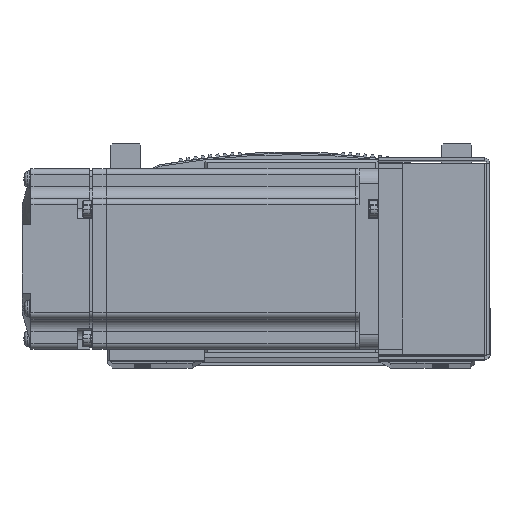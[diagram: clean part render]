
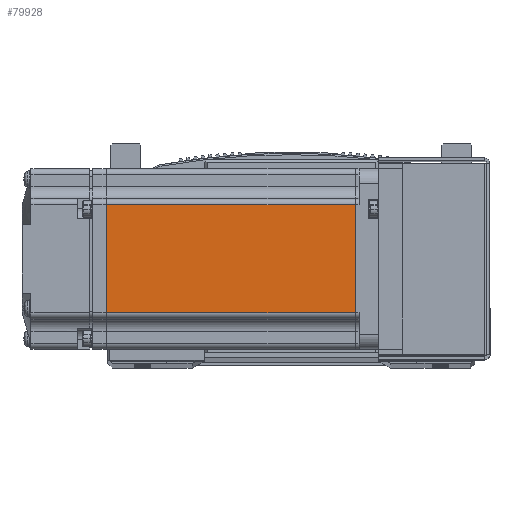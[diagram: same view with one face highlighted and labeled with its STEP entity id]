
A CAD part, top view. The second image highlights one B-rep face of the part: STEP entity #79928.
In plain terms, the highlighted planar face has unit normal (0, 0, 1) as drawn and (0, 1, 0) by its records, which use the part's own axes.
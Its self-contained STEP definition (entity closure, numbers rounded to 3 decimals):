
#1562 = VERTEX_POINT ( 'NONE', #89187 ) ;
#1572 = VERTEX_POINT ( 'NONE', #89365 ) ;
#1611 = VERTEX_POINT ( 'NONE', #89263 ) ;
#1679 = VERTEX_POINT ( 'NONE', #85980 ) ;
#2411 = PLANE ( 'NONE',  #13301 ) ;
#2423 = DIRECTION ( 'NONE',  ( 0., 0., 1. ) ) ;
#2469 = CARTESIAN_POINT ( 'NONE',  ( -6.5, 30., 25. ) ) ;
#2501 = DIRECTION ( 'NONE',  ( 0., 1., 0. ) ) ;
#11236 = FACE_OUTER_BOUND ( 'NONE', #89014, .T. ) ;
#13301 = AXIS2_PLACEMENT_3D ( 'NONE', #2469, #2501, #2423 ) ;
#33073 = LINE ( 'NONE', #65399, #33141 ) ;
#33141 = VECTOR ( 'NONE', #65435, 1000. ) ;
#33868 = VECTOR ( 'NONE', #64875, 1000. ) ;
#33874 = LINE ( 'NONE', #64859, #33868 ) ;
#33877 = LINE ( 'NONE', #65145, #33916 ) ;
#33916 = VECTOR ( 'NONE', #65149, 1000. ) ;
#33936 = LINE ( 'NONE', #65048, #33937 ) ;
#33937 = VECTOR ( 'NONE', #65183, 1000. ) ;
#64859 = CARTESIAN_POINT ( 'NONE',  ( -6.5, 30., 18. ) ) ;
#64875 = DIRECTION ( 'NONE',  ( 1., 0., 0. ) ) ;
#65048 = CARTESIAN_POINT ( 'NONE',  ( -6.5, 30., -18. ) ) ;
#65145 = CARTESIAN_POINT ( 'NONE',  ( -7.75, 30., 0. ) ) ;
#65149 = DIRECTION ( 'NONE',  ( 0., 0., 1. ) ) ;
#65183 = DIRECTION ( 'NONE',  ( -1., 0., 0. ) ) ;
#65399 = CARTESIAN_POINT ( 'NONE',  ( -90.45, 30., 0. ) ) ;
#65435 = DIRECTION ( 'NONE',  ( 0., 0., 1. ) ) ;
#70071 = EDGE_CURVE ( 'NONE', #1562, #1572, #33874, .T. ) ;
#70135 = EDGE_CURVE ( 'NONE', #1679, #1611, #33936, .T. ) ;
#70141 = EDGE_CURVE ( 'NONE', #1679, #1572, #33877, .T. ) ;
#70189 = EDGE_CURVE ( 'NONE', #1611, #1562, #33073, .T. ) ;
#76268 = ORIENTED_EDGE ( 'NONE', *, *, #70071, .T. ) ;
#76280 = ORIENTED_EDGE ( 'NONE', *, *, #70141, .F. ) ;
#76294 = ORIENTED_EDGE ( 'NONE', *, *, #70189, .T. ) ;
#76312 = ORIENTED_EDGE ( 'NONE', *, *, #70135, .T. ) ;
#79928 = ADVANCED_FACE ( 'NONE', ( #11236 ), #2411, .T. ) ;
#85980 = CARTESIAN_POINT ( 'NONE',  ( -7.75, 30., -18. ) ) ;
#89014 = EDGE_LOOP ( 'NONE', ( #76280, #76312, #76294, #76268 ) ) ;
#89187 = CARTESIAN_POINT ( 'NONE',  ( -90.45, 30., 18. ) ) ;
#89263 = CARTESIAN_POINT ( 'NONE',  ( -90.45, 30., -18. ) ) ;
#89365 = CARTESIAN_POINT ( 'NONE',  ( -7.75, 30., 18. ) ) ;
